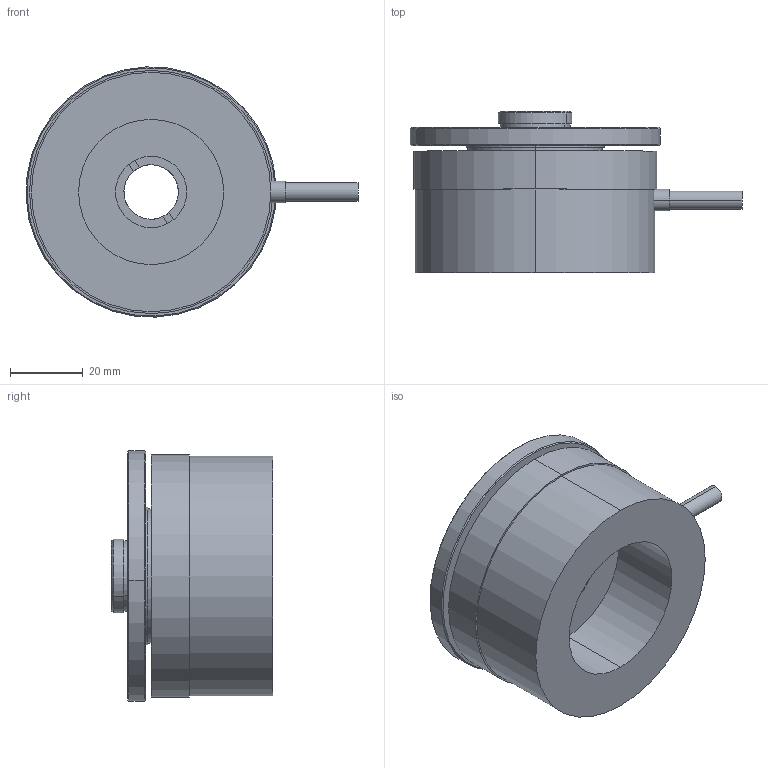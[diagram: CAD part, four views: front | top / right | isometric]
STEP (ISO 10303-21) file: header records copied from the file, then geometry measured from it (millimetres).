
FILE_DESCRIPTION (( 'STEP AP203' ), '1' );
FILE_NAME ('P76.Z50带转接件（上RMS下RMS螺纹）三维图2024.08.12.STEP', '2024-08-12T02:47:26', ( '微软用户' ), ( '微软中国' ), 'SwSTEP 2.0', 'SolidWorks 2016', '' );
FILE_SCHEMA (( 'CONFIG_CONTROL_DESIGN' ));
Length unit declared in the file: millimetre
Products named in the file (4): P76标准尺寸三维图_P76.Z50-W0.8*1-36"; P76俋窒蹟恇蛌諉B_P76.Z50; P76.Z50带转接件（上RMS下RMS螺纹）三维图2024.08.12; P76俋窒蹟恇蛌諉A_(N)W0.8*1-36"-(D)15
Assembly tree (3 placements, depth 2):
  P76.Z50带转接件（上RMS下RMS螺纹）三维图2024.08.12
    P76标准尺寸三维图_P76.Z50-W0.8*1-36"
    P76俋窒蹟恇蛌諉A_(N)W0.8*1-36"-(D)15
    P76俋窒蹟恇蛌諉B_P76.Z50
Bounding box: 91.48 x 44.5 x 68.96 mm (x, y, z)
Volume: 99430.2 mm3; surface area: 29688.7 mm2
Topology: 4 solids, 4 shells, 75 faces, 163 edges, 106 vertices
Faces by surface type: cylinder 39, plane 28, cone 8
Entity records: 2511 total; most frequent: DIRECTION 419, CARTESIAN_POINT 350, ORIENTED_EDGE 326, AXIS2_PLACEMENT_3D 175, EDGE_CURVE 163, VERTEX_POINT 106, CIRCLE 94, EDGE_LOOP 91
